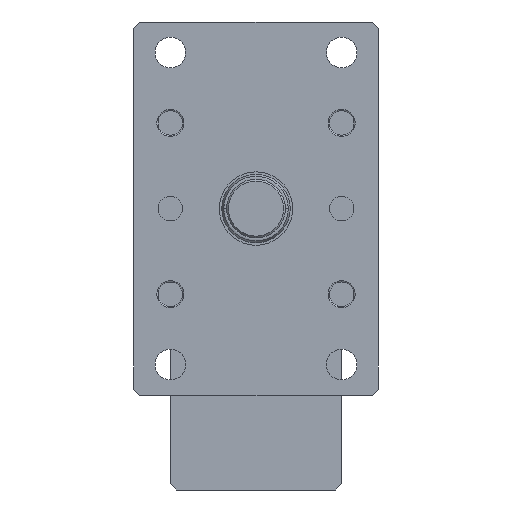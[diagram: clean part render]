
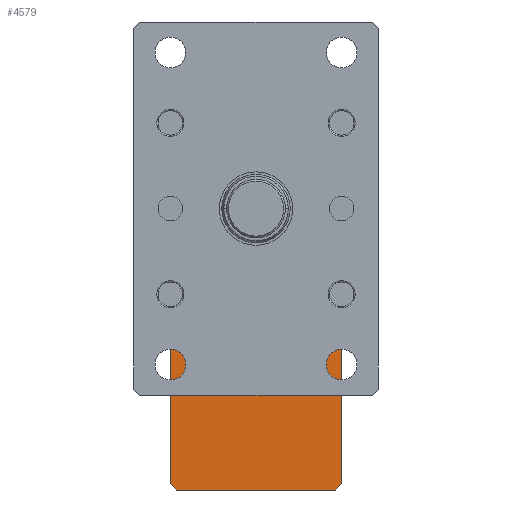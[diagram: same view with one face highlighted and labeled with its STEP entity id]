
A CAD part, left-side view. The second image highlights one B-rep face of the part: STEP entity #4579.
In plain terms, the highlighted planar face has unit normal (-1, 0, 0).
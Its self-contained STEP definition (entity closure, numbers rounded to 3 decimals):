
#1 = CARTESIAN_POINT ( 'NONE',  ( 377.5, -65., -90. ) ) ;
#72 = DIRECTION ( 'NONE',  ( 0., 0., 1. ) ) ;
#293 = VECTOR ( 'NONE', #4360, 1000. ) ;
#432 = EDGE_CURVE ( 'NONE', #8049, #1965, #5958, .T. ) ;
#751 = LINE ( 'NONE', #8870, #4455 ) ;
#1123 = CARTESIAN_POINT ( 'NONE',  ( 377.5, 65., -230. ) ) ;
#1368 = LINE ( 'NONE', #6554, #8499 ) ;
#1387 = LINE ( 'NONE', #4344, #6902 ) ;
#1394 = ORIENTED_EDGE ( 'NONE', *, *, #8650, .T. ) ;
#1436 = LINE ( 'NONE', #2818, #2636 ) ;
#1519 = EDGE_CURVE ( 'NONE', #2782, #6986, #5590, .T. ) ;
#1737 = CARTESIAN_POINT ( 'NONE',  ( 377.5, 70., -95. ) ) ;
#1965 = VERTEX_POINT ( 'NONE', #4528 ) ;
#2117 = PLANE ( 'NONE',  #3177 ) ;
#2154 = DIRECTION ( 'NONE',  ( 1., 0., 0. ) ) ;
#2190 = VECTOR ( 'NONE', #2547, 1000. ) ;
#2222 = ORIENTED_EDGE ( 'NONE', *, *, #6320, .F. ) ;
#2411 = DIRECTION ( 'NONE',  ( 0., 1., 0. ) ) ;
#2534 = ORIENTED_EDGE ( 'NONE', *, *, #3845, .T. ) ;
#2547 = DIRECTION ( 'NONE',  ( 0., 0.707, 0.707 ) ) ;
#2636 = VECTOR ( 'NONE', #4901, 1000. ) ;
#2687 = CARTESIAN_POINT ( 'NONE',  ( 377.5, 70., -230. ) ) ;
#2782 = VERTEX_POINT ( 'NONE', #7372 ) ;
#2818 = CARTESIAN_POINT ( 'NONE',  ( 377.5, -65., -230. ) ) ;
#2837 = CARTESIAN_POINT ( 'NONE',  ( 377.5, -70., -230. ) ) ;
#2867 = ORIENTED_EDGE ( 'NONE', *, *, #432, .T. ) ;
#3010 = ORIENTED_EDGE ( 'NONE', *, *, #4771, .T. ) ;
#3177 = AXIS2_PLACEMENT_3D ( 'NONE', #4905, #2154, #6989 ) ;
#3517 = ORIENTED_EDGE ( 'NONE', *, *, #6642, .T. ) ;
#3845 = EDGE_CURVE ( 'NONE', #6130, #6986, #1387, .T. ) ;
#3905 = CARTESIAN_POINT ( 'NONE',  ( 377.5, -65., -230. ) ) ;
#4038 = DIRECTION ( 'NONE',  ( 0., -0.707, -0.707 ) ) ;
#4040 = LINE ( 'NONE', #6692, #2190 ) ;
#4095 = VECTOR ( 'NONE', #72, 1000. ) ;
#4256 = ORIENTED_EDGE ( 'NONE', *, *, #1519, .F. ) ;
#4344 = CARTESIAN_POINT ( 'NONE',  ( 377.5, 70., -95. ) ) ;
#4360 = DIRECTION ( 'NONE',  ( 0., 0., 1. ) ) ;
#4455 = VECTOR ( 'NONE', #4038, 1000. ) ;
#4528 = CARTESIAN_POINT ( 'NONE',  ( 377.5, -70., -95. ) ) ;
#4579 = ADVANCED_FACE ( 'NONE', ( #6586 ), #2117, .F. ) ;
#4600 = LINE ( 'NONE', #2687, #6427 ) ;
#4771 = EDGE_CURVE ( 'NONE', #5815, #6130, #1368, .T. ) ;
#4829 = VERTEX_POINT ( 'NONE', #1123 ) ;
#4901 = DIRECTION ( 'NONE',  ( 0., -0.707, 0.707 ) ) ;
#4905 = CARTESIAN_POINT ( 'NONE',  ( 377.5, 70., -230. ) ) ;
#5066 = CARTESIAN_POINT ( 'NONE',  ( 377.5, 70., -230. ) ) ;
#5103 = CARTESIAN_POINT ( 'NONE',  ( 377.5, -70., -225. ) ) ;
#5204 = CARTESIAN_POINT ( 'NONE',  ( 377.5, 65., -90. ) ) ;
#5590 = LINE ( 'NONE', #5066, #293 ) ;
#5815 = VERTEX_POINT ( 'NONE', #1 ) ;
#5888 = EDGE_CURVE ( 'NONE', #8493, #8049, #1436, .T. ) ;
#5958 = LINE ( 'NONE', #2837, #4095 ) ;
#6130 = VERTEX_POINT ( 'NONE', #5204 ) ;
#6267 = ORIENTED_EDGE ( 'NONE', *, *, #5888, .T. ) ;
#6320 = EDGE_CURVE ( 'NONE', #8493, #4829, #4600, .T. ) ;
#6427 = VECTOR ( 'NONE', #6839, 1000. ) ;
#6554 = CARTESIAN_POINT ( 'NONE',  ( 377.5, 70., -90. ) ) ;
#6586 = FACE_OUTER_BOUND ( 'NONE', #8746, .T. ) ;
#6642 = EDGE_CURVE ( 'NONE', #1965, #5815, #4040, .T. ) ;
#6692 = CARTESIAN_POINT ( 'NONE',  ( 377.5, -70., -95. ) ) ;
#6839 = DIRECTION ( 'NONE',  ( 0., 1., 0. ) ) ;
#6902 = VECTOR ( 'NONE', #8465, 1000. ) ;
#6986 = VERTEX_POINT ( 'NONE', #1737 ) ;
#6989 = DIRECTION ( 'NONE',  ( 0., 1., 0. ) ) ;
#7372 = CARTESIAN_POINT ( 'NONE',  ( 377.5, 70., -225. ) ) ;
#8049 = VERTEX_POINT ( 'NONE', #5103 ) ;
#8465 = DIRECTION ( 'NONE',  ( 0., 0.707, -0.707 ) ) ;
#8493 = VERTEX_POINT ( 'NONE', #3905 ) ;
#8499 = VECTOR ( 'NONE', #2411, 1000. ) ;
#8650 = EDGE_CURVE ( 'NONE', #2782, #4829, #751, .T. ) ;
#8746 = EDGE_LOOP ( 'NONE', ( #2867, #3517, #3010, #2534, #4256, #1394, #2222, #6267 ) ) ;
#8870 = CARTESIAN_POINT ( 'NONE',  ( 377.5, 65., -230. ) ) ;
